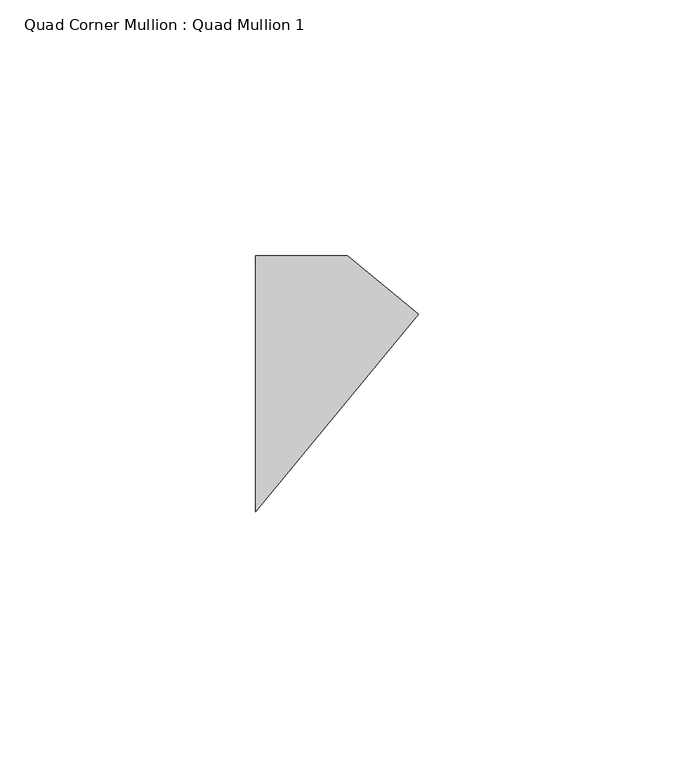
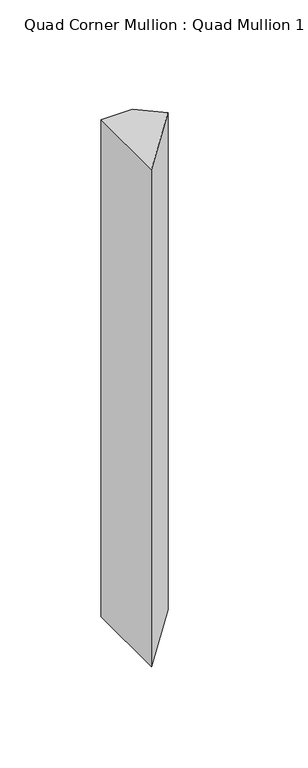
"""IFC4 building model written with IfcOpenShell, lengths in millimetres: member geometry, Quad Corner Mullion : Quad Mullion 1."""

from ifc_helpers import new_model, si_unit, frame, origin, place, context, project, spatial, polyline, outline, extrude, source, transform, mapped, element, save


def quad_corner_mullion_quad_mullion_1_645931bc(model_context):
    return source(origin(), model_context, "Body", "SweptSolid", [
        extrude(outline(polyline([(22.8068923, 13.6086231), (-8.963758, -25.0), (-8.963758, 25.0), (8.963758, 25.0), (22.8068923, 13.6086231)])), frame((0.0, 0.0, -300.0), z_axis=(0.0, 0.0, 1.0), x_axis=(1.0, 0.0, 0.0)), (0.0, 0.0, 1.0), 300.0),
    ])


if __name__ == "__main__":
    model = new_model("IFC4")
    model_context = context("Model", 3, world=origin())
    ifc_project = project(units=[si_unit("LENGTHUNIT", "METRE", prefix="MILLI")], contexts=[model_context])
    site = spatial("IfcSite", under=ifc_project)
    building = spatial("IfcBuilding", under=site)
    placement = place(None, origin())
    quad_corner_mullion_quad_mullion_1_shape = quad_corner_mullion_quad_mullion_1_645931bc(model_context)
    element("IfcMember", 1, ObjectType="Quad Corner Mullion : Quad Mullion 1", at=placement, inside=building, context=model_context, shape_type="MappedRepresentation", body=[
        mapped(quad_corner_mullion_quad_mullion_1_shape, transform((0.0, 0.0, 0.0), x_axis=(1.0, 0.0, 0.0), y_axis=(0.0, 1.0, 0.0), z_axis=(0.0, 0.0, 1.0))),
    ])
    save(model, "model.ifc")
